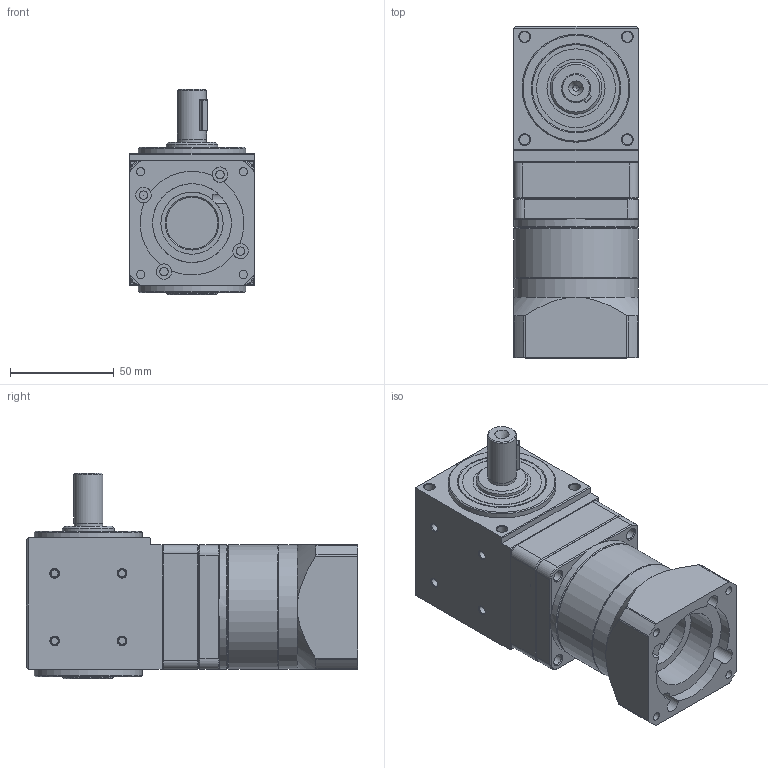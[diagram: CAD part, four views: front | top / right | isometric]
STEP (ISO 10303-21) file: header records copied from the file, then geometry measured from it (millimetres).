
FILE_DESCRIPTION (( 'STEP AP203' ), '1' );
FILE_NAME ('RAS60R2-60.STEP', '2015-03-13T03:03:52', ( 'wang' ), ( '' ), 'SwSTEP 2.0', 'SolidWorks 2013', '' );
FILE_SCHEMA (( 'CONFIG_CONTROL_DESIGN' ));
Length unit declared in the file: millimetre
Products named in the file (1): RAS60R2-60
Bounding box: 60 x 159.9 x 99 mm (x, y, z)
Volume: 387226.2 mm3; surface area: 127031.1 mm2
Topology: 13 solids, 13 shells, 1028 faces, 2648 edges, 1709 vertices
Faces by surface type: cylinder 416, plane 252, bspline 216, cone 131, sphere 8, torus 5
Full cylindrical faces by diameter (mm): 0.051 x1, 3 x2, 3.3 x4, 4 x28, 4.2 x1, 4.3 x4, 4.4 x4, 5 x9, 5.2 x5, 7.4 x4, 8 x5, 8.5 x1, 10 x1, 13.8 x1, 14 x3, 15 x1, 17 x1, 20 x2, 22 x1, 24.6 x1, 24.8 x2, 25 x6, 26 x1, 26.982 x1, 28 x2, 29.923 x1, 30 x1, 31.304 x1, 32 x2, 35 x2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
Entity records: 43901 total; most frequent: CARTESIAN_POINT 20780, ORIENTED_EDGE 4760, DIRECTION 4458, EDGE_CURVE 2380, AXIS2_PLACEMENT_3D 1823, VERTEX_POINT 1649, EDGE_LOOP 1355, FACE_OUTER_BOUND 1154
